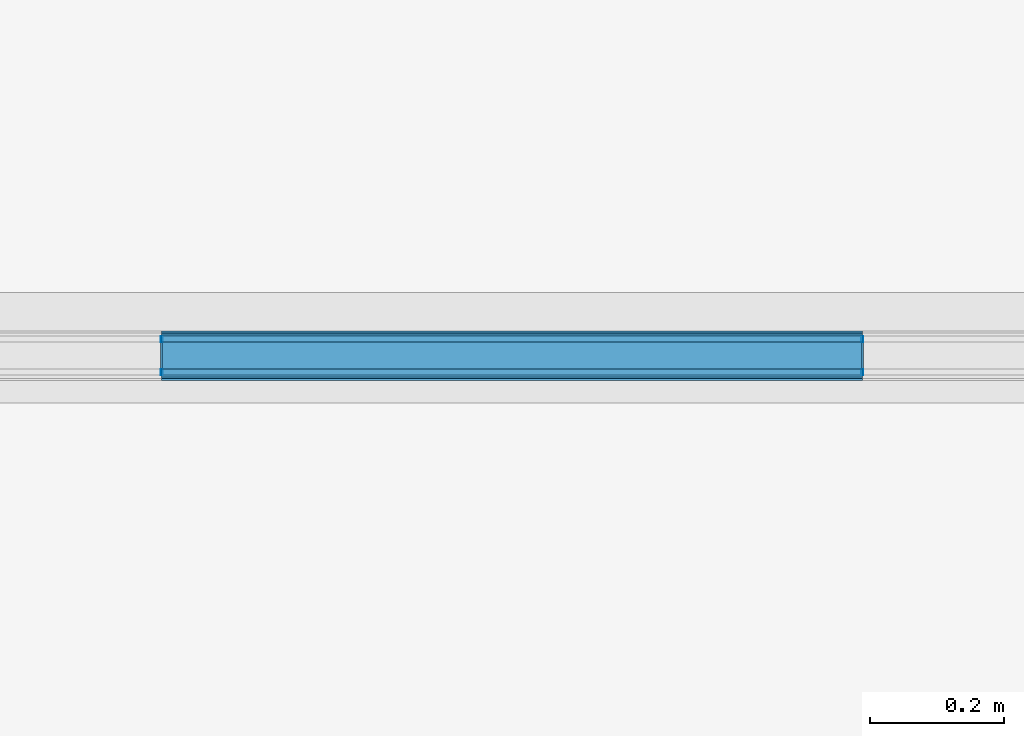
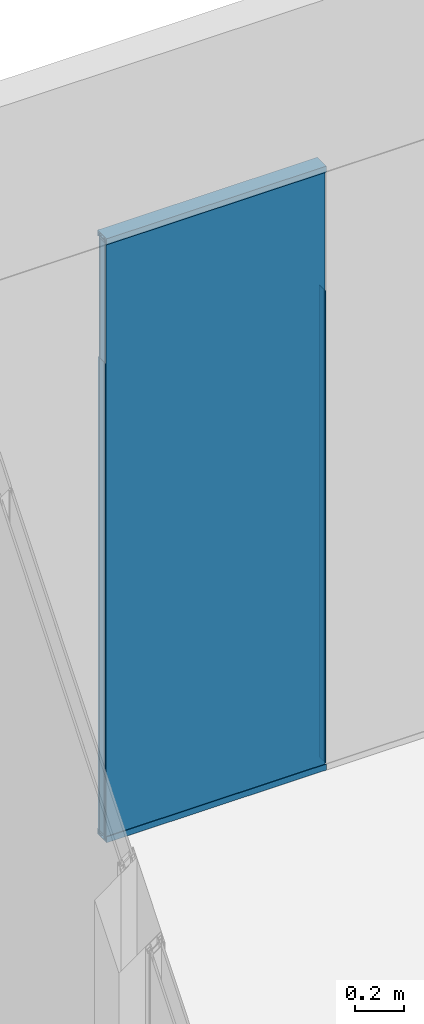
# One storey, part 73 of 387: 10 building element parts, 6 elements without a shape of their own.
"""IFC2X3 building model written with IfcOpenShell, lengths in millimetres."""

from ifc_helpers import new_model, entity, si_unit, converted_unit, derived_unit, money_unit, direction, frame, origin_with_axes, place, context, subcontext, project, spatial, faceted_brep, source, transform, mapped, material, type_object, element, aggregate, save


model = new_model("IFC2X3")

# Units and contexts
model_context = context("Model", 3, precision=0.01, world=origin_with_axes(), true_north=direction((0.0, 1.0)))
body_context = subcontext(model_context, "Body", "Model", "MODEL_VIEW")
ifc_project = project(units=[si_unit("LENGTHUNIT", "METRE", prefix="MILLI"), si_unit("AREAUNIT", "SQUARE_METRE"), si_unit("VOLUMEUNIT", "CUBIC_METRE"), converted_unit("PLANEANGLEUNIT", "DEGREE", entity("IfcPlaneAngleMeasure", 0.0174532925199), si_unit("PLANEANGLEUNIT", "RADIAN"), dimensions=[0, 0, 0, 0, 0, 0, 0]), si_unit("SOLIDANGLEUNIT", "STERADIAN"), money_unit("EUR"), converted_unit("TIMEUNIT", "Year", entity("IfcTimeMeasure", 31556926.0), si_unit("TIMEUNIT", "SECOND"), dimensions=[0, 0, 1, 0, 0, 0, 0]), si_unit("MASSUNIT", "GRAM", prefix="KILO"), si_unit("THERMODYNAMICTEMPERATUREUNIT", "DEGREE_CELSIUS"), si_unit("LUMINOUSINTENSITYUNIT", "LUMEN"), si_unit("ENERGYUNIT", "JOULE", prefix="MEGA"), derived_unit("THERMALCONDUCTANCEUNIT", [(si_unit("POWERUNIT", "WATT"), 1), (si_unit("LENGTHUNIT", "METRE"), -1), (si_unit("THERMODYNAMICTEMPERATUREUNIT", "KELVIN"), -1)]), derived_unit("SPECIFICHEATCAPACITYUNIT", [(si_unit("ENERGYUNIT", "JOULE"), 1), (si_unit("MASSUNIT", "GRAM", prefix="KILO"), -1), (si_unit("THERMODYNAMICTEMPERATUREUNIT", "KELVIN"), -1)]), derived_unit("MASSDENSITYUNIT", [(si_unit("MASSUNIT", "GRAM", prefix="KILO"), 1), (si_unit("VOLUMEUNIT", "CUBIC_METRE"), -1)])], contexts=[model_context])

# Site, building, storey
site_placement = place(None, origin_with_axes())
site = spatial("IfcSite", under=ifc_project, at=site_placement, Name="Puškini 31, Narva", CompositionType="ELEMENT")
building_placement = place(site_placement, origin_with_axes())
building = spatial("IfcBuilding", under=site, at=building_placement, Name="Narva Riigigümnaasium", CompositionType="ELEMENT")
storey_placement = place(building_placement, frame((0.0, 0.0, 2640.0), z_axis=(0.0, 0.0, 1.0), x_axis=(1.0, 0.0, 0.0)))
storey = spatial("IfcBuildingStorey", under=building, at=storey_placement, Name="2.korrus +2.64", CompositionType="ELEMENT", Elevation=2640.0)

# Curtain wall, members, building element parts, plate
curtain_wall_type = type_object("IfcCurtainWallType", Name="Curtain Wall Type", PredefinedType="NOTDEFINED")
curtain_wall_placement = place(storey_placement, frame((37550.2857124, 173462.999993, -4.40148757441e-05), z_axis=(0.0, 0.0, 1.0), x_axis=(1.0, 0.0, 0.0)))
curtain_wall = element("IfcCurtainWall", 1, at=curtain_wall_placement, inside=storey, type_object=curtain_wall_type, Name="G-SKLF-27")
member_type_1 = type_object("IfcMemberType", Name="30 x 37", PredefinedType="MULLION")
member_1_placement = place(curtain_wall_placement, frame((-3724.28571429, -2.60627075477e-08, 3029.99994006), z_axis=(1.0, 0.0, 0.0), x_axis=(0.0, 0.0, -1.0)))
member_1 = element("IfcMember", 2, at=member_1_placement, type_object=member_type_1, Name="G-SKLF-56-raam", ObjectType="MULLION")
ifc_material_1 = material(Name="Klaasvill")
shared_shape_1 = source(origin_with_axes(), body_context, "Body", "Brep", [
    faceted_brep([(7.49999990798, 20.000000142, 0.0), (13.8499999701, 20.000000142, 0.0), (13.8499999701, 20.000000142, 1044.0), (7.49999990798, 20.000000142, 1044.0), (7.49999990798, 34.0161444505, 0.0), (13.8499999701, 34.0161444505, 0.0), (13.8499999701, 34.0161444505, 1044.0), (7.49999990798, 34.0161444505, 1044.0)], [[[0, 1, 2, 3]], [[0, 4, 5, 1]], [[1, 5, 6, 2]], [[3, 2, 6, 7]], [[4, 0, 3, 7]], [[5, 4, 7, 6]]]),
    faceted_brep([(24.987414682, 34.0161444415, 0.0), (25.004489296, 32.0307503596, 0.0), (25.004489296, 32.0307503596, 1044.0), (24.987414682, 34.0161444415, 1044.0), (28.5126239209, 34.0161444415, 0.0), (28.7655837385, 33.0385325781, 0.0), (28.4955493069, 32.0307503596, 0.0), (27.75780152, 31.2930025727, 0.0), (26.7500193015, 31.0229681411, 0.0), (25.742237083, 31.2930025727, 0.0), (25.742237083, 31.2930025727, 1044.0), (26.7500193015, 31.0229681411, 1044.0), (27.75780152, 31.2930025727, 1044.0), (28.4955493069, 32.0307503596, 1044.0), (28.7655837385, 33.0385325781, 1044.0), (28.5126239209, 34.0161444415, 1044.0)], [[[0, 1, 2, 3]], [[0, 4, 5, 6, 7, 8, 9, 1]], [[1, 9, 10, 2]], [[3, 2, 10, 11, 12, 13, 14, 15]], [[4, 0, 3, 15]], [[5, 4, 15, 14]], [[6, 5, 14, 13]], [[7, 6, 13, 12]], [[8, 7, 12, 11]], [[9, 8, 11, 10]]]),
    faceted_brep([(7.49999990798, -19.9999997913, 0.0), (7.49999990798, -34.0161445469, 0.0), (7.49999990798, -34.0161445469, 1044.0), (7.49999990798, -19.9999997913, 1044.0), (13.8499999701, -19.9999997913, 0.0), (13.8499999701, -34.0161445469, 0.0), (13.8499999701, -34.0161445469, 1044.0), (13.8499999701, -19.9999997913, 1044.0)], [[[0, 1, 2, 3]], [[0, 4, 5, 1]], [[1, 5, 6, 2]], [[3, 2, 6, 7]], [[4, 0, 3, 7]], [[5, 4, 7, 6]]]),
    faceted_brep([(25.004489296, -32.0307503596, 0.0), (24.987414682, -34.0161444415, 0.0), (24.987414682, -34.0161444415, 1044.0), (25.004489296, -32.0307503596, 1044.0), (25.742237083, -31.2930025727, 0.0), (26.7500193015, -31.0229681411, 0.0), (27.75780152, -31.2930025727, 0.0), (28.4955493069, -32.0307503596, 0.0), (28.7655837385, -33.0385325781, 0.0), (28.5126239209, -34.0161444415, 0.0), (28.5126239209, -34.0161444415, 1044.0), (28.7655837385, -33.0385325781, 1044.0), (28.4955493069, -32.0307503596, 1044.0), (27.75780152, -31.2930025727, 1044.0), (26.7500193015, -31.0229681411, 1044.0), (25.742237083, -31.2930025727, 1044.0)], [[[0, 1, 2, 3]], [[0, 4, 5, 6, 7, 8, 9, 1]], [[1, 9, 10, 2]], [[3, 2, 10, 11, 12, 13, 14, 15]], [[4, 0, 3, 15]], [[5, 4, 15, 14]], [[6, 5, 14, 13]], [[7, 6, 13, 12]], [[8, 7, 12, 11]], [[9, 8, 11, 10]]]),
])
building_element_part_1_placement = place(member_1_placement, origin_with_axes())
building_element_part_1 = element("IfcBuildingElementPart", 3, at=building_element_part_1_placement, material=ifc_material_1, Name="Klaasvill", context=body_context, shape_type="MappedRepresentation", body=[
    mapped(shared_shape_1, transform((0.0, 0.0, 0.0))),
])
member_2_placement = place(curtain_wall_placement, frame((-2680.28571429, -1.87583282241e-08, 3.92464998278e-05), z_axis=(-1.0, 0.0, 0.0), x_axis=(0.0, 0.0, 1.0)))
member_2 = element("IfcMember", 4, at=member_2_placement, type_object=member_type_1, Name="G-SKLF-51-raam", ObjectType="MULLION")
building_element_part_2_placement = place(member_2_placement, origin_with_axes())
building_element_part_2 = element("IfcBuildingElementPart", 5, at=building_element_part_2_placement, material=ifc_material_1, Name="Klaasvill", context=body_context, shape_type="MappedRepresentation", body=[
    mapped(shared_shape_1, transform((0.0, 0.0, 0.0))),
])
ifc_material_2 = material(Name="Teras RAL7012")
shared_shape_2 = source(origin_with_axes(), body_context, "Body", "Brep", [
    faceted_brep([(0.0, -17.0000000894, 0.0), (29.5999996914, -17.0000000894, 0.0), (29.5999996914, -17.0000000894, 1044.0), (0.0, -17.0000000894, 1044.0), (0.0, 17.0000000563, 0.0), (29.5999996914, 17.0000000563, 0.0), (1.9999999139, 15.0000001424, 0.0), (1.9999999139, -15.0000001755, 0.0), (18.7999996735, -15.0000001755, 0.0), (18.7999996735, 15.0000001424, 0.0), (29.5999996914, 17.0000000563, 1044.0), (0.0, 17.0000000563, 1044.0), (1.9999999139, 15.0000001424, 1044.0), (18.7999996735, 15.0000001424, 1044.0), (18.7999996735, -15.0000001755, 1044.0), (1.9999999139, -15.0000001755, 1044.0)], [[[0, 1, 2, 3]], [[0, 4, 5, 1], [6, 7, 8, 9]], [[1, 5, 10, 2]], [[3, 2, 10, 11], [12, 13, 14, 15]], [[4, 0, 3, 11]], [[5, 4, 11, 10]], [[7, 6, 12, 15]], [[8, 7, 15, 14]], [[9, 8, 14, 13]], [[6, 9, 13, 12]]]),
    faceted_brep([(0.0, 17.0, 0.0), (29.5999996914, 17.0000000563, 0.0), (29.5999996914, 17.0000000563, 1044.0), (0.0, 17.0, 1044.0), (0.0, 37.0, 0.0), (30.0000193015, 37.0, 0.0), (30.0000193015, 34.0161444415, 0.0), (28.5126239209, 34.0161444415, 0.0), (24.987414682, 34.0161444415, 0.0), (13.8499999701, 34.0161444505, 0.0), (7.49999999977, 34.0161444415, 0.0), (7.49999999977, 20.0, 0.0), (13.8499999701, 20.000000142, 0.0), (30.0000193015, 20.0, 0.0), (30.0000193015, 17.0, 0.0), (30.0000193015, 17.0, 1044.0), (30.0000193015, 20.0, 1044.0), (13.8499999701, 20.000000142, 1044.0), (7.49999999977, 20.0, 1044.0), (7.49999999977, 34.0161444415, 1044.0), (13.8499999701, 34.0161444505, 1044.0), (24.987414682, 34.0161444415, 1044.0), (28.5126239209, 34.0161444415, 1044.0), (30.0000193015, 34.0161444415, 1044.0), (30.0000193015, 37.0, 1044.0), (0.0, 37.0, 1044.0)], [[[0, 1, 2, 3]], [[0, 4, 5, 6, 7, 8, 9, 10, 11, 12, 13, 14, 1]], [[1, 14, 15, 2]], [[3, 2, 15, 16, 17, 18, 19, 20, 21, 22, 23, 24, 25]], [[4, 0, 3, 25]], [[5, 4, 25, 24]], [[6, 5, 24, 23]], [[7, 6, 23, 22]], [[8, 7, 22, 21]], [[9, 8, 21, 20]], [[10, 9, 20, 19]], [[11, 10, 19, 18]], [[12, 11, 18, 17]], [[13, 12, 17, 16]], [[14, 13, 16, 15]]]),
    faceted_brep([(0.0, -17.0, 0.0), (0.0, -37.0, 0.0), (0.0, -37.0, 1044.0), (0.0, -17.0, 1044.0), (29.5999996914, -17.0000000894, 0.0), (30.0000193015, -17.0, 0.0), (30.0000193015, -20.0, 0.0), (13.8499999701, -19.9999997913, 0.0), (7.49999999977, -20.0, 0.0), (7.49999999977, -34.0161444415, 0.0), (13.8499999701, -34.0161445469, 0.0), (24.987414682, -34.0161444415, 0.0), (28.5126239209, -34.0161444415, 0.0), (30.0000193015, -34.0161444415, 0.0), (30.0000193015, -37.0, 0.0), (30.0000193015, -37.0, 1044.0), (30.0000193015, -34.0161444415, 1044.0), (28.5126239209, -34.0161444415, 1044.0), (24.987414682, -34.0161444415, 1044.0), (13.8499999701, -34.0161445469, 1044.0), (7.49999999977, -34.0161444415, 1044.0), (7.49999999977, -20.0, 1044.0), (13.8499999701, -19.9999997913, 1044.0), (30.0000193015, -20.0, 1044.0), (30.0000193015, -17.0, 1044.0), (29.5999996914, -17.0000000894, 1044.0)], [[[0, 1, 2, 3]], [[0, 4, 5, 6, 7, 8, 9, 10, 11, 12, 13, 14, 1]], [[1, 14, 15, 2]], [[3, 2, 15, 16, 17, 18, 19, 20, 21, 22, 23, 24, 25]], [[4, 0, 3, 25]], [[5, 4, 25, 24]], [[6, 5, 24, 23]], [[7, 6, 23, 22]], [[8, 7, 22, 21]], [[9, 8, 21, 20]], [[10, 9, 20, 19]], [[11, 10, 19, 18]], [[12, 11, 18, 17]], [[13, 12, 17, 16]], [[14, 13, 16, 15]]]),
])
building_element_part_3_placement = place(member_1_placement, origin_with_axes())
building_element_part_3 = element("IfcBuildingElementPart", 6, at=building_element_part_3_placement, material=ifc_material_2, Name="Teras RAL7012", context=body_context, shape_type="MappedRepresentation", body=[
    mapped(shared_shape_2, transform((0.0, 0.0, 0.0))),
])
aggregate(member_1, [building_element_part_1, building_element_part_3])
building_element_part_4_placement = place(member_2_placement, origin_with_axes())
building_element_part_4 = element("IfcBuildingElementPart", 7, at=building_element_part_4_placement, material=ifc_material_2, Name="Teras RAL7012", context=body_context, shape_type="MappedRepresentation", body=[
    mapped(shared_shape_2, transform((0.0, 0.0, 0.0))),
])
aggregate(member_2, [building_element_part_2, building_element_part_4])
member_type_2 = type_object("IfcMemberType", Name="Siseklaasfassaad - Raam n2htamatu 3 x 29", PredefinedType="MULLION")
member_3_placement = place(curtain_wall_placement, frame((-2680.28571429, -1.87583282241e-08, 3.92464998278e-05), z_axis=(0.0, 0.0, 1.0), x_axis=(1.0, 0.0, 0.0)))
member_3 = element("IfcMember", 8, at=member_3_placement, type_object=member_type_2, Name="G-SKLF-27-raam", ObjectType="MULLION")
ifc_material_3 = material(Name="Klaas")
shared_shape_3 = source(origin_with_axes(), body_context, "Body", "Brep", [
    faceted_brep([(1.5000138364, 20.0064497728, 30.0000193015), (1.5000138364, 20.0064497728, 2400.00000477), (-1.4999861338, 20.0064497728, 2400.00000477), (-1.4999861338, 20.0064497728, 30.0000193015), (1.5000138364, 29.0064496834, 30.0000193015), (1.5000138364, 29.0064496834, 2400.00000477), (-1.4999861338, 29.0064496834, 2400.00000477), (-1.4999861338, 29.0064496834, 30.0000193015)], [[[0, 1, 2, 3]], [[4, 5, 1, 0]], [[2, 1, 5, 6]], [[3, 2, 6, 7]], [[3, 7, 4, 0]], [[7, 6, 5, 4]]]),
    faceted_brep([(-1.4999861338, -28.9935503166, 30.0000193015), (-1.4999861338, -28.9935503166, 2400.00000477), (-1.4999861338, -19.993550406, 2400.00000477), (-1.4999861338, -19.993550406, 30.0000193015), (1.5000138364, -28.9935503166, 30.0000193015), (1.5000138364, -28.9935503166, 2400.00000477), (1.5000138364, -19.993550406, 2400.00000477), (1.5000138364, -19.993550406, 30.0000193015)], [[[0, 1, 2, 3]], [[4, 5, 1, 0]], [[2, 1, 5, 6]], [[3, 2, 6, 7]], [[3, 7, 4, 0]], [[7, 6, 5, 4]]]),
])
building_element_part_5_placement = place(member_3_placement, origin_with_axes())
building_element_part_5 = element("IfcBuildingElementPart", 9, at=building_element_part_5_placement, material=ifc_material_3, Name="Klaas", context=body_context, shape_type="MappedRepresentation", body=[
    mapped(shared_shape_3, transform((0.0, 0.0, 0.0))),
])
member_4_placement = place(curtain_wall_placement, frame((-3724.28571429, -2.60627075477e-08, 3.92464998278e-05), z_axis=(0.0, 0.0, 1.0), x_axis=(1.0, 0.0, 0.0)))
member_4 = element("IfcMember", 10, at=member_4_placement, type_object=member_type_2, Name="G-SKLF-27-raam", ObjectType="MULLION")
building_element_part_6_placement = place(member_4_placement, origin_with_axes())
building_element_part_6 = element("IfcBuildingElementPart", 11, at=building_element_part_6_placement, material=ifc_material_3, Name="Klaas", context=body_context, shape_type="MappedRepresentation", body=[
    mapped(shared_shape_3, transform((0.0, 0.0, 0.0))),
])
ifc_material_4 = material(Name="VKR-06_Õhkvahe")
shared_shape_4 = source(origin_with_axes(), body_context, "Body", "Brep", [
    faceted_brep([(-1.4999861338, -19.9935503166, 30.0000193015), (-1.4999861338, -19.9935503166, 2400.00000477), (-1.4999861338, 20.0064496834, 2400.00000477), (-1.4999861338, 20.0064496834, 30.0000193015), (1.5000138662, -19.9935503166, 30.0000193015), (1.5000138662, -19.9935503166, 2400.00000477), (1.5000138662, 20.0064496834, 2400.00000477), (1.5000138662, 20.0064496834, 30.0000193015)], [[[0, 1, 2, 3]], [[4, 5, 1, 0]], [[2, 1, 5, 6]], [[3, 2, 6, 7]], [[3, 7, 4, 0]], [[7, 6, 5, 4]]]),
])
building_element_part_7_placement = place(member_3_placement, origin_with_axes())
building_element_part_7 = element("IfcBuildingElementPart", 12, at=building_element_part_7_placement, material=ifc_material_4, Name="VKR-06_Õhkvahe", context=body_context, shape_type="MappedRepresentation", body=[
    mapped(shared_shape_4, transform((0.0, 0.0, 0.0))),
])
aggregate(member_3, [building_element_part_5, building_element_part_7])
building_element_part_8_placement = place(member_4_placement, origin_with_axes())
building_element_part_8 = element("IfcBuildingElementPart", 13, at=building_element_part_8_placement, material=ifc_material_4, Name="VKR-06_Õhkvahe", context=body_context, shape_type="MappedRepresentation", body=[
    mapped(shared_shape_4, transform((0.0, 0.0, 0.0))),
])
aggregate(member_4, [building_element_part_6, building_element_part_8])
plate_type = type_object("IfcPlateType", Name="1041 x 615 x 10", PredefinedType="CURTAIN_PANEL")
plate_placement = place(curtain_wall_placement, frame((-3202.28571429, -2.24247287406e-08, 1810.00000777), z_axis=(0.0, 0.0, 1.0), x_axis=(1.0, 0.0, 0.0)))
plate = element("IfcPlate", 14, at=plate_placement, type_object=plate_type, Name="G-SKLF-27-klaas", ObjectType="CURTAIN_PANEL")
aggregate(curtain_wall, [member_1, member_3, member_4, member_2, plate])
ifc_material_5 = material(Name="VKR-05_Klaas")
shared_shape_5 = source(origin_with_axes(), body_context, "Body", "Brep", [
    faceted_brep([(1042.50000958, 3014.99990948, -29.0), (1.49999195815, 3014.99999978, -29.0), (1.49999195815, 3014.99999978, -20.0), (1042.50000958, 3014.99990948, -20.0), (1042.50000958, 15.0000098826, -29.0), (1.49999195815, 15.0000098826, -29.0), (1.49999195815, 15.0000098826, -20.0), (1042.50000958, 15.0000098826, -20.0)], [[[0, 1, 2, 3]], [[0, 4, 5, 1]], [[1, 5, 6, 2]], [[3, 2, 6, 7]], [[4, 0, 3, 7]], [[5, 4, 7, 6]]]),
    faceted_brep([(1042.50000958, 3014.99990948, 20.0), (1.49999195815, 3014.99999978, 20.0), (1.49999195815, 3014.99999978, 29.0), (1042.50000958, 3014.99990948, 29.0), (1042.50000958, 15.0000098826, 20.0), (1.49999195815, 15.0000098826, 20.0), (1.49999195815, 15.0000098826, 29.0), (1042.50000958, 15.0000098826, 29.0)], [[[0, 1, 2, 3]], [[0, 4, 5, 1]], [[1, 5, 6, 2]], [[3, 2, 6, 7]], [[4, 0, 3, 7]], [[5, 4, 7, 6]]]),
])
building_element_part_9_placement = place(plate_placement, origin_with_axes())
building_element_part_9 = element("IfcBuildingElementPart", 15, at=building_element_part_9_placement, material=ifc_material_5, Name="VKR-05_Klaas", context=body_context, shape_type="MappedRepresentation", body=[
    mapped(shared_shape_5, transform((522.0, 0.0, -1809.99996853), x_axis=(-1.0, 0.0, 0.0), y_axis=(0.0, 0.0, 1.0), z_axis=(0.0, 1.0, 0.0))),
])
shared_shape_6 = source(origin_with_axes(), body_context, "Body", "Brep", [
    faceted_brep([(1042.50000958, 3014.99990948, -20.0), (1.49999195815, 3014.99999978, -20.0), (1.49999195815, 3014.99999978, 20.0), (1042.50000958, 3014.99990948, 20.0), (1042.50000958, 15.0000098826, -20.0), (1.49999195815, 15.0000098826, -20.0), (1.49999195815, 15.0000098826, 20.0), (1042.50000958, 15.0000098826, 20.0)], [[[0, 1, 2, 3]], [[0, 4, 5, 1]], [[1, 5, 6, 2]], [[3, 2, 6, 7]], [[4, 0, 3, 7]], [[5, 4, 7, 6]]]),
])
building_element_part_10_placement = place(plate_placement, origin_with_axes())
building_element_part_10 = element("IfcBuildingElementPart", 16, at=building_element_part_10_placement, material=ifc_material_4, Name="VKR-06_Õhkvahe", context=body_context, shape_type="MappedRepresentation", body=[
    mapped(shared_shape_6, transform((522.0, 0.0, -1809.99996853), x_axis=(-1.0, 0.0, 0.0), y_axis=(0.0, 0.0, 1.0), z_axis=(0.0, 1.0, 0.0))),
])
aggregate(plate, [building_element_part_9, building_element_part_10])

save(model, "model.ifc")
